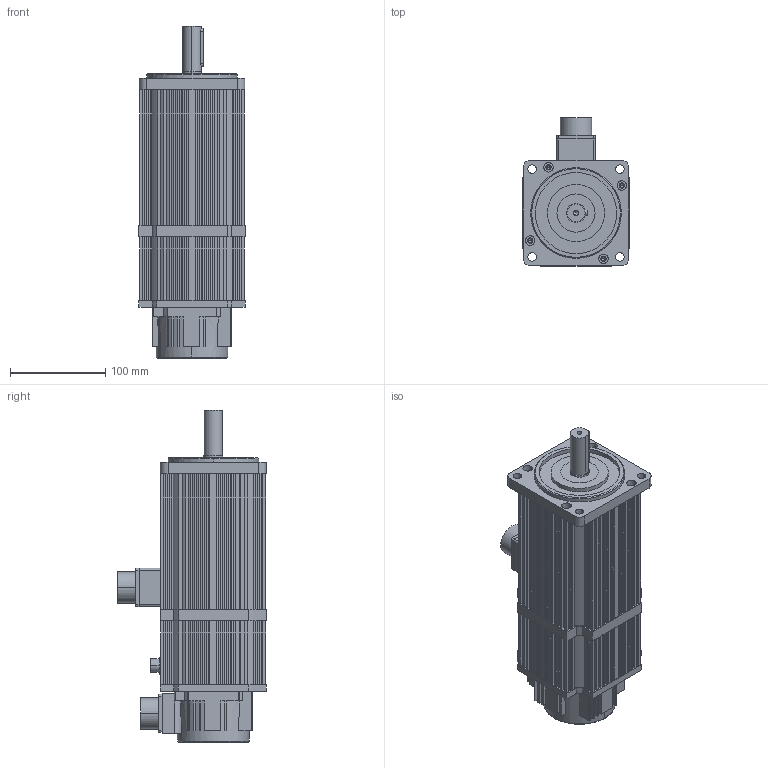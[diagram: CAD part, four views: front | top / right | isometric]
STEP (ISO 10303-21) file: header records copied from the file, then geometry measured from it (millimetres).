
FILE_DESCRIPTION (( 'STEP AP203' ), '1' );
FILE_NAME ('ASMJ-11-1830B-H342.STEP', '2024-06-03T09:44:54', ( 'Admin' ), ( '' ), 'SwSTEP 2.0', 'SolidWorks 2018', '' );
FILE_SCHEMA (( 'CONFIG_CONTROL_DESIGN' ));
Length unit declared in the file: millimetre
Products named in the file (1): ASMJ-11-1830B-H342
Bounding box: 111.2 x 155.9 x 348 mm (x, y, z)
Volume: 943516.3 mm3; surface area: 455764.3 mm2
Topology: 13 solids, 13 shells, 1201 faces, 3319 edges, 2134 vertices
Faces by surface type: plane 709, cylinder 397, cone 51, bspline 44
Entity records: 39685 total; most frequent: CARTESIAN_POINT 8785, ORIENTED_EDGE 6462, DIRECTION 6333, EDGE_CURVE 3231, VECTOR 2253, LINE 2253, VERTEX_POINT 2134, AXIS2_PLACEMENT_3D 2040
